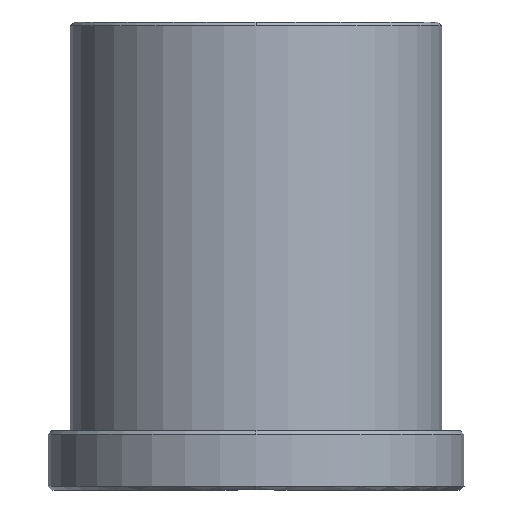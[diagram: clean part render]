
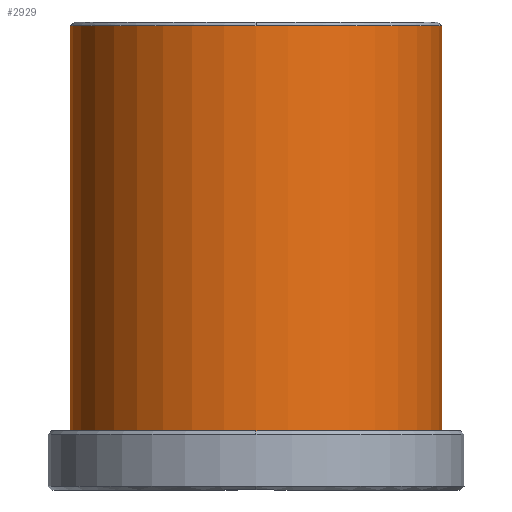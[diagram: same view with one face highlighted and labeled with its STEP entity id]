
A CAD part, front view. The second image highlights one B-rep face of the part: STEP entity #2929.
In plain terms, the highlighted cylindrical face has radius 25 mm (diameter 50 mm), a partial arc.
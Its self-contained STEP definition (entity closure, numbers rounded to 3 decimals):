
#2716=CARTESIAN_POINT('Vertex',(25.,0.,62.5)) ;
#2740=CARTESIAN_POINT('Vertex',(-25.,0.,62.5)) ;
#2764=CARTESIAN_POINT('Vertex',(0.,-25.,62.5)) ;
#2767=CARTESIAN_POINT('Axis2P3D Location',(0.,0.,62.5)) ;
#2784=CARTESIAN_POINT('Axis2P3D Location',(0.,0.,62.5)) ;
#2873=CARTESIAN_POINT('Line Origine',(25.,0.,-3.15)) ;
#2877=CARTESIAN_POINT('Vertex',(25.,0.,8.)) ;
#2896=CARTESIAN_POINT('Vertex',(-25.,0.,8.)) ;
#2899=CARTESIAN_POINT('Line Origine',(-25.,0.,-3.15)) ;
#2912=CARTESIAN_POINT('Axis2P3D Location',(0.,0.,-3.15)) ;
#2917=CARTESIAN_POINT('Axis2P3D Location',(0.,0.,8.)) ;
#2768=DIRECTION('Axis2P3D Direction',(0.,0.,-1.)) ;
#2785=DIRECTION('Axis2P3D Direction',(0.,0.,-1.)) ;
#2874=DIRECTION('Vector Direction',(0.,0.,1.)) ;
#2900=DIRECTION('Vector Direction',(0.,0.,1.)) ;
#2913=DIRECTION('Axis2P3D Direction',(0.,0.,1.)) ;
#2914=DIRECTION('Axis2P3D XDirection',(-1.,0.,0.)) ;
#2918=DIRECTION('Axis2P3D Direction',(0.,0.,1.)) ;
#2769=AXIS2_PLACEMENT_3D('Circle Axis2P3D',#2767,#2768,$) ;
#2786=AXIS2_PLACEMENT_3D('Circle Axis2P3D',#2784,#2785,$) ;
#2915=AXIS2_PLACEMENT_3D('Cylinder Axis2P3D',#2912,#2913,#2914) ;
#2919=AXIS2_PLACEMENT_3D('Circle Axis2P3D',#2917,#2918,$) ;
#2923=ORIENTED_EDGE('',*,*,#2903,.T.) ;
#2924=ORIENTED_EDGE('',*,*,#2921,.F.) ;
#2925=ORIENTED_EDGE('',*,*,#2879,.F.) ;
#2926=ORIENTED_EDGE('',*,*,#2788,.T.) ;
#2927=ORIENTED_EDGE('',*,*,#2771,.T.) ;
#2875=VECTOR('Line Direction',#2874,1.) ;
#2901=VECTOR('Line Direction',#2900,1.) ;
#2929=ADVANCED_FACE('MANIFOLD_SOLID_BREP #2292',(#2928),#2916,.T.) ;
#2770=CIRCLE('generated circle',#2769,25.) ;
#2787=CIRCLE('generated circle',#2786,25.) ;
#2920=CIRCLE('generated circle',#2919,25.) ;
#2916=CYLINDRICAL_SURFACE('generated cylinder',#2915,25.) ;
#2771=EDGE_CURVE('',#2765,#2741,#2770,.T.) ;
#2788=EDGE_CURVE('',#2717,#2765,#2787,.T.) ;
#2879=EDGE_CURVE('',#2717,#2878,#2876,.F.) ;
#2903=EDGE_CURVE('',#2741,#2897,#2902,.F.) ;
#2921=EDGE_CURVE('',#2878,#2897,#2920,.F.) ;
#2922=EDGE_LOOP('',(#2923,#2924,#2925,#2926,#2927)) ;
#2928=FACE_OUTER_BOUND('',#2922,.T.) ;
#2876=LINE('Line',#2873,#2875) ;
#2902=LINE('Line',#2899,#2901) ;
#2717=VERTEX_POINT('',#2716) ;
#2741=VERTEX_POINT('',#2740) ;
#2765=VERTEX_POINT('',#2764) ;
#2878=VERTEX_POINT('',#2877) ;
#2897=VERTEX_POINT('',#2896) ;
